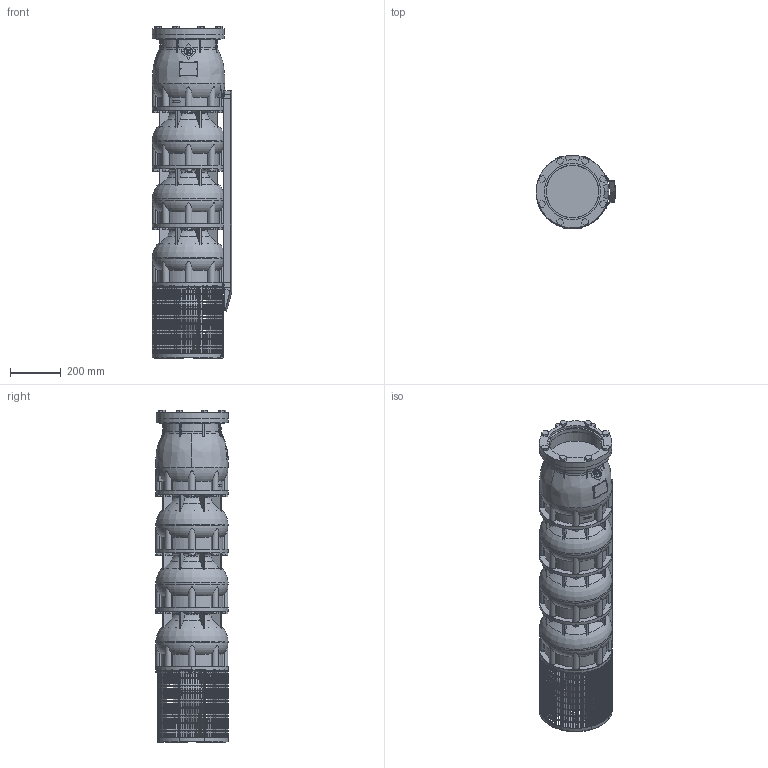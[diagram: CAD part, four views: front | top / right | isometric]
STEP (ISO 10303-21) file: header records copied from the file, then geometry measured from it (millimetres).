
FILE_DESCRIPTION(/* description */ ('Unknown'),/* implementation_level */ '2;1');
FILE_NAME(/* name */ 'VSI454-3-1F_WF_M12-50_DME (220kW)',/* time_stamp */ '2026-06-03T11:39:56+02:00',/* author */ ('Unknown'),/* organization */ ('Unknown'),/* preprocessor_version */ 'ST-DEVELOPER v20',/* originating_system */ 'Solid Edge',/* authorisation */ 'Unknown');
FILE_SCHEMA (('AUTOMOTIVE_DESIGN {1 0 10303 214 3 1 1}'));
Products named in the file (12): VSI454-3-1F_WF_M12-50_DME (220kW); VSI344-454_testata; VSI344-454_supporto; VSI344-454_filtro_A; VSI344-454_filtro_B; VSI344-454_terminale_top_copricavo_medio; VSI344-454_terminale_bottom_copricavo_medio; MID 454-3; VSI454_diffusore; M5X8_UNI7687; VSI184-254_giunto_10×12; VSI344-454_flangia_testata
Assembly tree (22 placements, depth 2):
  VSI454-3-1F_WF_M12-50_DME (220kW)
    VSI344-454_testata
    VSI344-454_supporto
    VSI344-454_filtro_A
    VSI344-454_filtro_B
    VSI344-454_terminale_top_copricavo_medio
    VSI344-454_terminale_bottom_copricavo_medio
    MID 454-3
    VSI454_diffusore  x3
    M5X8_UNI7687  x10
    VSI184-254_giunto_10×12
    VSI344-454_flangia_testata
Bounding box: 314.3 x 286 x 1305 mm (x, y, z)
Volume: 52245443.9 mm3; surface area: 2918524.9 mm2
Topology: 87 solids, 87 shells, 4172 faces, 11739 edges, 7797 vertices
Faces by surface type: plane 3377, cylinder 470, torus 215, cone 85, bspline 15, sphere 10
Full cylindrical faces by diameter (mm): 5 x10, 16 x8, 35 x1, 65 x1, 79 x1, 150 x1, 207 x1, 220.5 x1, 284.507 x3, 285 x3
Entity records: 124567 total; most frequent: CARTESIAN_POINT 28071, ORIENTED_EDGE 20264, DIRECTION 19362, EDGE_CURVE 10132, VERTEX_POINT 6757, AXIS2_PLACEMENT_3D 6539, LINE 6284, VECTOR 6284
